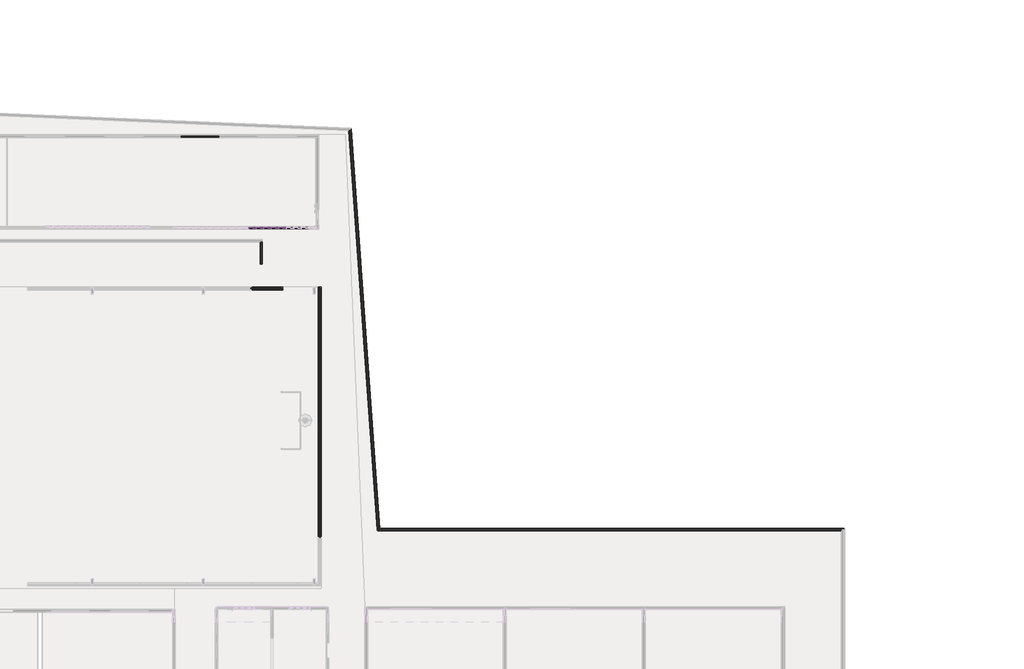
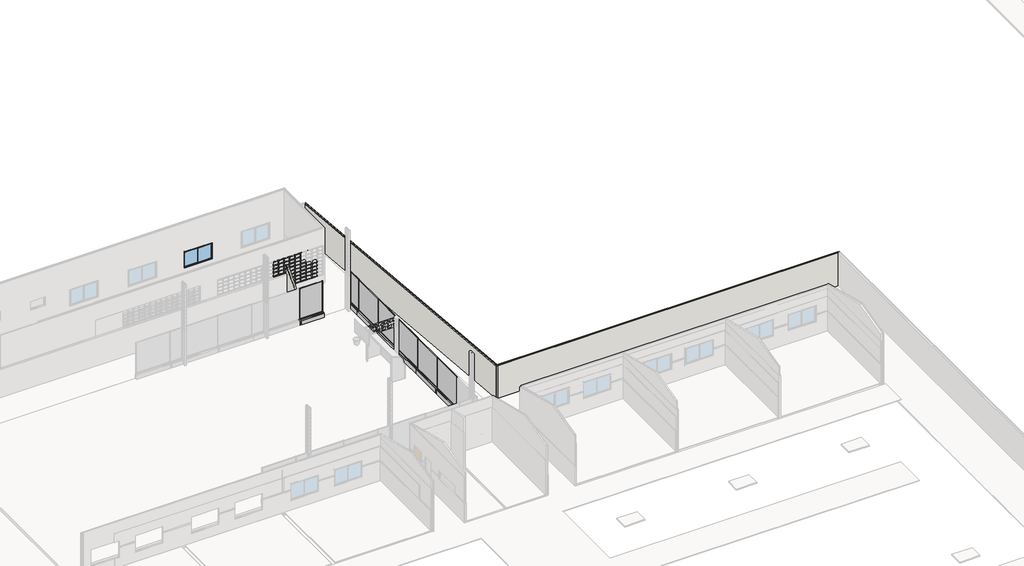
# One storey, part 26 of 28: 115 members, 9 walls, 7 plates, 1 window.
"""IFC4 building model written with IfcOpenShell, lengths in millimetres."""

from ifc_helpers import new_model, si_unit, frame, origin, origin_with_axes, place, context, project, spatial, polyline, outline, extrude, faceted_brep, transform, mapped, element, save
from components import montante_retangular_02d07947, montante_retangular_70ba8f4d, montante_retangular_ace9eee9, montante_retangular_afd96132, montante_retangular_e99c3e47, plate_c8864c2c, plate_b688e3d6, plate_8037e2f8, window_2x1_20x1x10_9e9748dd

model = new_model("IFC4")

# Units and contexts
model_context = context("Model", 3, world=origin())
ifc_project = project(units=[si_unit("LENGTHUNIT", "METRE", prefix="MILLI")], contexts=[model_context])

# Site, building, storey
site = spatial("IfcSite", under=ifc_project)
building = spatial("IfcBuilding", under=site)
storey = spatial("IfcBuildingStorey", under=building, Name="Térreo", Elevation=0.0)

# Members
placement = place(None, origin())
montante_retangular_shape = montante_retangular_02d07947(model_context)
element("IfcMember", 1, ObjectType="Montante retangular : FDE_MontanteVenezianaIndustrial_Intermediário_Ref50 (Alumínio Anodizado)", at=placement, inside=storey, context=model_context, shape_type="MappedRepresentation", body=[
    mapped(montante_retangular_shape, transform((-31822.631579, 48544.0879102, 925.0), x_axis=(1.0, 0.0, 0.0), y_axis=(0.0, -1.0, 0.0), z_axis=(0.0, 0.0, -1.0))),
])
element("IfcMember", 2, ObjectType="Montante retangular : FDE_MontanteVenezianaIndustrial_Intermediário_Ref50 (Alumínio Anodizado)", at=placement, inside=storey, context=model_context, shape_type="MappedRepresentation", body=[
    mapped(montante_retangular_shape, transform((-31416.0526317, 48544.0879102, 925.0), x_axis=(1.0, 0.0, 0.0), y_axis=(0.0, -1.0, 0.0), z_axis=(0.0, 0.0, -1.0))),
])
element("IfcMember", 3, ObjectType="Montante retangular : FDE_MontanteVenezianaIndustrial_Intermediário_Ref50 (Alumínio Anodizado)", at=placement, inside=storey, context=model_context, shape_type="MappedRepresentation", body=[
    mapped(montante_retangular_shape, transform((-31009.4736843, 48544.0879102, 925.0), x_axis=(1.0, 0.0, 0.0), y_axis=(0.0, -1.0, 0.0), z_axis=(0.0, 0.0, -1.0))),
])
element("IfcMember", 4, ObjectType="Montante retangular : FDE_MontanteVenezianaIndustrial_Intermediário_Ref50 (Alumínio Anodizado)", at=placement, inside=storey, context=model_context, shape_type="MappedRepresentation", body=[
    mapped(montante_retangular_shape, transform((-30602.894737, 48544.0879102, 925.0), x_axis=(1.0, 0.0, 0.0), y_axis=(0.0, -1.0, 0.0), z_axis=(0.0, 0.0, -1.0))),
])
element("IfcMember", 5, ObjectType="Montante retangular : FDE_MontanteVenezianaIndustrial_Intermediário_Ref50 (Alumínio Anodizado)", at=placement, inside=storey, context=model_context, shape_type="MappedRepresentation", body=[
    mapped(montante_retangular_shape, transform((-30196.3157897, 48544.0879102, 925.0), x_axis=(1.0, 0.0, 0.0), y_axis=(0.0, -1.0, 0.0), z_axis=(0.0, 0.0, -1.0))),
])
montante_retangular_2_shape = montante_retangular_70ba8f4d(model_context)
element("IfcMember", 6, ObjectType="Montante retangular : FDE_MontanteVenezianaIndustrial_Intermediário_Ref50 (Alumínio Anodizado)", at=placement, inside=storey, context=model_context, shape_type="MappedRepresentation", body=[
    mapped(montante_retangular_2_shape, transform((-31822.631579, 48544.0879102, 1174.0), x_axis=(1.0, 0.0, 0.0), y_axis=(0.0, -1.0, 0.0), z_axis=(0.0, 0.0, -1.0))),
])
element("IfcMember", 7, ObjectType="Montante retangular : FDE_MontanteVenezianaIndustrial_Intermediário_Ref50 (Alumínio Anodizado)", at=placement, inside=storey, context=model_context, shape_type="MappedRepresentation", body=[
    mapped(montante_retangular_2_shape, transform((-31416.0526317, 48544.0879102, 1174.0), x_axis=(1.0, 0.0, 0.0), y_axis=(0.0, -1.0, 0.0), z_axis=(0.0, 0.0, -1.0))),
])
element("IfcMember", 8, ObjectType="Montante retangular : FDE_MontanteVenezianaIndustrial_Intermediário_Ref50 (Alumínio Anodizado)", at=placement, inside=storey, context=model_context, shape_type="MappedRepresentation", body=[
    mapped(montante_retangular_2_shape, transform((-31009.4736843, 48544.0879102, 1174.0), x_axis=(1.0, 0.0, 0.0), y_axis=(0.0, -1.0, 0.0), z_axis=(0.0, 0.0, -1.0))),
])
element("IfcMember", 9, ObjectType="Montante retangular : FDE_MontanteVenezianaIndustrial_Intermediário_Ref50 (Alumínio Anodizado)", at=placement, inside=storey, context=model_context, shape_type="MappedRepresentation", body=[
    mapped(montante_retangular_2_shape, transform((-30602.894737, 48544.0879102, 1174.0), x_axis=(1.0, 0.0, 0.0), y_axis=(0.0, -1.0, 0.0), z_axis=(0.0, 0.0, -1.0))),
])
element("IfcMember", 10, ObjectType="Montante retangular : FDE_MontanteVenezianaIndustrial_Intermediário_Ref50 (Alumínio Anodizado)", at=placement, inside=storey, context=model_context, shape_type="MappedRepresentation", body=[
    mapped(montante_retangular_2_shape, transform((-30196.3157897, 48544.0879102, 1174.0), x_axis=(1.0, 0.0, 0.0), y_axis=(0.0, -1.0, 0.0), z_axis=(0.0, 0.0, -1.0))),
])
element("IfcMember", 11, ObjectType="Montante retangular : FDE_MontanteVenezianaIndustrial_Intermediário_Ref50 (Alumínio Anodizado)", at=placement, inside=storey, context=model_context, shape_type="MappedRepresentation", body=[
    mapped(montante_retangular_2_shape, transform((-31822.631579, 48544.0879102, 1448.0), x_axis=(1.0, 0.0, 0.0), y_axis=(0.0, -1.0, 0.0), z_axis=(0.0, 0.0, -1.0))),
])
element("IfcMember", 12, ObjectType="Montante retangular : FDE_MontanteVenezianaIndustrial_Intermediário_Ref50 (Alumínio Anodizado)", at=placement, inside=storey, context=model_context, shape_type="MappedRepresentation", body=[
    mapped(montante_retangular_2_shape, transform((-31416.0526317, 48544.0879102, 1448.0), x_axis=(1.0, 0.0, 0.0), y_axis=(0.0, -1.0, 0.0), z_axis=(0.0, 0.0, -1.0))),
])
element("IfcMember", 13, ObjectType="Montante retangular : FDE_MontanteVenezianaIndustrial_Intermediário_Ref50 (Alumínio Anodizado)", at=placement, inside=storey, context=model_context, shape_type="MappedRepresentation", body=[
    mapped(montante_retangular_2_shape, transform((-31009.4736843, 48544.0879102, 1448.0), x_axis=(1.0, 0.0, 0.0), y_axis=(0.0, -1.0, 0.0), z_axis=(0.0, 0.0, -1.0))),
])
element("IfcMember", 14, ObjectType="Montante retangular : FDE_MontanteVenezianaIndustrial_Intermediário_Ref50 (Alumínio Anodizado)", at=placement, inside=storey, context=model_context, shape_type="MappedRepresentation", body=[
    mapped(montante_retangular_2_shape, transform((-30602.894737, 48544.0879102, 1448.0), x_axis=(1.0, 0.0, 0.0), y_axis=(0.0, -1.0, 0.0), z_axis=(0.0, 0.0, -1.0))),
])
element("IfcMember", 15, ObjectType="Montante retangular : FDE_MontanteVenezianaIndustrial_Intermediário_Ref50 (Alumínio Anodizado)", at=placement, inside=storey, context=model_context, shape_type="MappedRepresentation", body=[
    mapped(montante_retangular_2_shape, transform((-30196.3157897, 48544.0879102, 1448.0), x_axis=(1.0, 0.0, 0.0), y_axis=(0.0, -1.0, 0.0), z_axis=(0.0, 0.0, -1.0))),
])
element("IfcMember", 16, ObjectType="Montante retangular : FDE_MontanteVenezianaIndustrial_Intermediário_Ref50 (Alumínio Anodizado)", at=placement, inside=storey, context=model_context, shape_type="MappedRepresentation", body=[
    mapped(montante_retangular_2_shape, transform((-31822.631579, 48544.0879102, 1722.0), x_axis=(1.0, 0.0, 0.0), y_axis=(0.0, -1.0, 0.0), z_axis=(0.0, 0.0, -1.0))),
])
element("IfcMember", 17, ObjectType="Montante retangular : FDE_MontanteVenezianaIndustrial_Intermediário_Ref50 (Alumínio Anodizado)", at=placement, inside=storey, context=model_context, shape_type="MappedRepresentation", body=[
    mapped(montante_retangular_2_shape, transform((-31416.0526317, 48544.0879102, 1722.0), x_axis=(1.0, 0.0, 0.0), y_axis=(0.0, -1.0, 0.0), z_axis=(0.0, 0.0, -1.0))),
])
element("IfcMember", 18, ObjectType="Montante retangular : FDE_MontanteVenezianaIndustrial_Intermediário_Ref50 (Alumínio Anodizado)", at=placement, inside=storey, context=model_context, shape_type="MappedRepresentation", body=[
    mapped(montante_retangular_2_shape, transform((-31009.4736843, 48544.0879102, 1722.0), x_axis=(1.0, 0.0, 0.0), y_axis=(0.0, -1.0, 0.0), z_axis=(0.0, 0.0, -1.0))),
])
element("IfcMember", 19, ObjectType="Montante retangular : FDE_MontanteVenezianaIndustrial_Intermediário_Ref50 (Alumínio Anodizado)", at=placement, inside=storey, context=model_context, shape_type="MappedRepresentation", body=[
    mapped(montante_retangular_2_shape, transform((-30602.894737, 48544.0879102, 1722.0), x_axis=(1.0, 0.0, 0.0), y_axis=(0.0, -1.0, 0.0), z_axis=(0.0, 0.0, -1.0))),
])
element("IfcMember", 20, ObjectType="Montante retangular : FDE_MontanteVenezianaIndustrial_Intermediário_Ref50 (Alumínio Anodizado)", at=placement, inside=storey, context=model_context, shape_type="MappedRepresentation", body=[
    mapped(montante_retangular_2_shape, transform((-30196.3157897, 48544.0879102, 1722.0), x_axis=(1.0, 0.0, 0.0), y_axis=(0.0, -1.0, 0.0), z_axis=(0.0, 0.0, -1.0))),
])
element("IfcMember", 21, ObjectType="Montante retangular : FDE_MontanteVenezianaIndustrial_Intermediário_Ref50 (Alumínio Anodizado)", at=placement, inside=storey, context=model_context, shape_type="MappedRepresentation", body=[
    mapped(montante_retangular_2_shape, transform((-31822.631579, 48544.0879102, 1996.0), x_axis=(1.0, 0.0, 0.0), y_axis=(0.0, -1.0, 0.0), z_axis=(0.0, 0.0, -1.0))),
])
element("IfcMember", 22, ObjectType="Montante retangular : FDE_MontanteVenezianaIndustrial_Intermediário_Ref50 (Alumínio Anodizado)", at=placement, inside=storey, context=model_context, shape_type="MappedRepresentation", body=[
    mapped(montante_retangular_2_shape, transform((-31416.0526317, 48544.0879102, 1996.0), x_axis=(1.0, 0.0, 0.0), y_axis=(0.0, -1.0, 0.0), z_axis=(0.0, 0.0, -1.0))),
])
element("IfcMember", 23, ObjectType="Montante retangular : FDE_MontanteVenezianaIndustrial_Intermediário_Ref50 (Alumínio Anodizado)", at=placement, inside=storey, context=model_context, shape_type="MappedRepresentation", body=[
    mapped(montante_retangular_2_shape, transform((-31009.4736843, 48544.0879102, 1996.0), x_axis=(1.0, 0.0, 0.0), y_axis=(0.0, -1.0, 0.0), z_axis=(0.0, 0.0, -1.0))),
])
element("IfcMember", 24, ObjectType="Montante retangular : FDE_MontanteVenezianaIndustrial_Intermediário_Ref50 (Alumínio Anodizado)", at=placement, inside=storey, context=model_context, shape_type="MappedRepresentation", body=[
    mapped(montante_retangular_2_shape, transform((-30602.894737, 48544.0879102, 1996.0), x_axis=(1.0, 0.0, 0.0), y_axis=(0.0, -1.0, 0.0), z_axis=(0.0, 0.0, -1.0))),
])
element("IfcMember", 25, ObjectType="Montante retangular : FDE_MontanteVenezianaIndustrial_Intermediário_Ref50 (Alumínio Anodizado)", at=placement, inside=storey, context=model_context, shape_type="MappedRepresentation", body=[
    mapped(montante_retangular_2_shape, transform((-30196.3157897, 48544.0879102, 1996.0), x_axis=(1.0, 0.0, 0.0), y_axis=(0.0, -1.0, 0.0), z_axis=(0.0, 0.0, -1.0))),
])
element("IfcMember", 26, ObjectType="Montante retangular : FDE_MontanteVenezianaIndustrial_Intermediário_Ref50 (Alumínio Anodizado)", at=placement, inside=storey, context=model_context, shape_type="MappedRepresentation", body=[
    mapped(montante_retangular_2_shape, transform((-31822.631579, 48544.0879102, 2270.0), x_axis=(1.0, 0.0, 0.0), y_axis=(0.0, -1.0, 0.0), z_axis=(0.0, 0.0, -1.0))),
])
element("IfcMember", 27, ObjectType="Montante retangular : FDE_MontanteVenezianaIndustrial_Intermediário_Ref50 (Alumínio Anodizado)", at=placement, inside=storey, context=model_context, shape_type="MappedRepresentation", body=[
    mapped(montante_retangular_2_shape, transform((-31416.0526317, 48544.0879102, 2270.0), x_axis=(1.0, 0.0, 0.0), y_axis=(0.0, -1.0, 0.0), z_axis=(0.0, 0.0, -1.0))),
])
element("IfcMember", 28, ObjectType="Montante retangular : FDE_MontanteVenezianaIndustrial_Intermediário_Ref50 (Alumínio Anodizado)", at=placement, inside=storey, context=model_context, shape_type="MappedRepresentation", body=[
    mapped(montante_retangular_2_shape, transform((-31009.4736843, 48544.0879102, 2270.0), x_axis=(1.0, 0.0, 0.0), y_axis=(0.0, -1.0, 0.0), z_axis=(0.0, 0.0, -1.0))),
])
element("IfcMember", 29, ObjectType="Montante retangular : FDE_MontanteVenezianaIndustrial_Intermediário_Ref50 (Alumínio Anodizado)", at=placement, inside=storey, context=model_context, shape_type="MappedRepresentation", body=[
    mapped(montante_retangular_2_shape, transform((-30602.894737, 48544.0879102, 2270.0), x_axis=(1.0, 0.0, 0.0), y_axis=(0.0, -1.0, 0.0), z_axis=(0.0, 0.0, -1.0))),
])
element("IfcMember", 30, ObjectType="Montante retangular : FDE_MontanteVenezianaIndustrial_Intermediário_Ref50 (Alumínio Anodizado)", at=placement, inside=storey, context=model_context, shape_type="MappedRepresentation", body=[
    mapped(montante_retangular_2_shape, transform((-30196.3157897, 48544.0879102, 2270.0), x_axis=(1.0, 0.0, 0.0), y_axis=(0.0, -1.0, 0.0), z_axis=(0.0, 0.0, -1.0))),
])
element("IfcMember", 31, ObjectType="Montante retangular : FDE_MontanteVenezianaIndustrial_Intermediário_Ref50 (Alumínio Anodizado)", at=placement, inside=storey, context=model_context, shape_type="MappedRepresentation", body=[
    mapped(montante_retangular_2_shape, transform((-31822.631579, 48544.0879102, 2544.0), x_axis=(1.0, 0.0, 0.0), y_axis=(0.0, -1.0, 0.0), z_axis=(0.0, 0.0, -1.0))),
])
element("IfcMember", 32, ObjectType="Montante retangular : FDE_MontanteVenezianaIndustrial_Intermediário_Ref50 (Alumínio Anodizado)", at=placement, inside=storey, context=model_context, shape_type="MappedRepresentation", body=[
    mapped(montante_retangular_2_shape, transform((-31416.0526317, 48544.0879102, 2544.0), x_axis=(1.0, 0.0, 0.0), y_axis=(0.0, -1.0, 0.0), z_axis=(0.0, 0.0, -1.0))),
])
element("IfcMember", 33, ObjectType="Montante retangular : FDE_MontanteVenezianaIndustrial_Intermediário_Ref50 (Alumínio Anodizado)", at=placement, inside=storey, context=model_context, shape_type="MappedRepresentation", body=[
    mapped(montante_retangular_2_shape, transform((-31009.4736843, 48544.0879102, 2544.0), x_axis=(1.0, 0.0, 0.0), y_axis=(0.0, -1.0, 0.0), z_axis=(0.0, 0.0, -1.0))),
])
element("IfcMember", 34, ObjectType="Montante retangular : FDE_MontanteVenezianaIndustrial_Intermediário_Ref50 (Alumínio Anodizado)", at=placement, inside=storey, context=model_context, shape_type="MappedRepresentation", body=[
    mapped(montante_retangular_2_shape, transform((-30602.894737, 48544.0879102, 2544.0), x_axis=(1.0, 0.0, 0.0), y_axis=(0.0, -1.0, 0.0), z_axis=(0.0, 0.0, -1.0))),
])
element("IfcMember", 35, ObjectType="Montante retangular : FDE_MontanteVenezianaIndustrial_Intermediário_Ref50 (Alumínio Anodizado)", at=placement, inside=storey, context=model_context, shape_type="MappedRepresentation", body=[
    mapped(montante_retangular_2_shape, transform((-30196.3157897, 48544.0879102, 2544.0), x_axis=(1.0, 0.0, 0.0), y_axis=(0.0, -1.0, 0.0), z_axis=(0.0, 0.0, -1.0))),
])
element("IfcMember", 36, ObjectType="Montante retangular : FDE_MontanteVenezianaIndustrial_Intermediário_Ref50 (Alumínio Anodizado)", at=placement, inside=storey, context=model_context, shape_type="MappedRepresentation", body=[
    mapped(montante_retangular_2_shape, transform((-31822.631579, 48544.0879102, 2818.0), x_axis=(1.0, 0.0, 0.0), y_axis=(0.0, -1.0, 0.0), z_axis=(0.0, 0.0, -1.0))),
])
element("IfcMember", 37, ObjectType="Montante retangular : FDE_MontanteVenezianaIndustrial_Intermediário_Ref50 (Alumínio Anodizado)", at=placement, inside=storey, context=model_context, shape_type="MappedRepresentation", body=[
    mapped(montante_retangular_2_shape, transform((-31416.0526317, 48544.0879102, 2818.0), x_axis=(1.0, 0.0, 0.0), y_axis=(0.0, -1.0, 0.0), z_axis=(0.0, 0.0, -1.0))),
])
element("IfcMember", 38, ObjectType="Montante retangular : FDE_MontanteVenezianaIndustrial_Intermediário_Ref50 (Alumínio Anodizado)", at=placement, inside=storey, context=model_context, shape_type="MappedRepresentation", body=[
    mapped(montante_retangular_2_shape, transform((-31009.4736843, 48544.0879102, 2818.0), x_axis=(1.0, 0.0, 0.0), y_axis=(0.0, -1.0, 0.0), z_axis=(0.0, 0.0, -1.0))),
])
element("IfcMember", 39, ObjectType="Montante retangular : FDE_MontanteVenezianaIndustrial_Intermediário_Ref50 (Alumínio Anodizado)", at=placement, inside=storey, context=model_context, shape_type="MappedRepresentation", body=[
    mapped(montante_retangular_2_shape, transform((-30602.894737, 48544.0879102, 2818.0), x_axis=(1.0, 0.0, 0.0), y_axis=(0.0, -1.0, 0.0), z_axis=(0.0, 0.0, -1.0))),
])
element("IfcMember", 40, ObjectType="Montante retangular : FDE_MontanteVenezianaIndustrial_Intermediário_Ref50 (Alumínio Anodizado)", at=placement, inside=storey, context=model_context, shape_type="MappedRepresentation", body=[
    mapped(montante_retangular_2_shape, transform((-30196.3157897, 48544.0879102, 2818.0), x_axis=(1.0, 0.0, 0.0), y_axis=(0.0, -1.0, 0.0), z_axis=(0.0, 0.0, -1.0))),
])
montante_retangular_3_shape = montante_retangular_ace9eee9(model_context)
element("IfcMember", 41, ObjectType="Montante retangular : FDE_MontanteVenezianaIndustrial_Intermediário_Ref50 (Alumínio Anodizado)", at=placement, inside=storey, context=model_context, shape_type="MappedRepresentation", body=[
    mapped(montante_retangular_3_shape, transform((-31822.631579, 48544.0879102, 3092.0), x_axis=(1.0, 0.0, 0.0), y_axis=(0.0, -1.0, 0.0), z_axis=(0.0, 0.0, -1.0))),
])
element("IfcMember", 42, ObjectType="Montante retangular : FDE_MontanteVenezianaIndustrial_Intermediário_Ref50 (Alumínio Anodizado)", at=placement, inside=storey, context=model_context, shape_type="MappedRepresentation", body=[
    mapped(montante_retangular_3_shape, transform((-31416.0526317, 48544.0879102, 3092.0), x_axis=(1.0, 0.0, 0.0), y_axis=(0.0, -1.0, 0.0), z_axis=(0.0, 0.0, -1.0))),
])
element("IfcMember", 43, ObjectType="Montante retangular : FDE_MontanteVenezianaIndustrial_Intermediário_Ref50 (Alumínio Anodizado)", at=placement, inside=storey, context=model_context, shape_type="MappedRepresentation", body=[
    mapped(montante_retangular_3_shape, transform((-31009.4736843, 48544.0879102, 3092.0), x_axis=(1.0, 0.0, 0.0), y_axis=(0.0, -1.0, 0.0), z_axis=(0.0, 0.0, -1.0))),
])
element("IfcMember", 44, ObjectType="Montante retangular : FDE_MontanteVenezianaIndustrial_Intermediário_Ref50 (Alumínio Anodizado)", at=placement, inside=storey, context=model_context, shape_type="MappedRepresentation", body=[
    mapped(montante_retangular_3_shape, transform((-30602.894737, 48544.0879102, 3092.0), x_axis=(1.0, 0.0, 0.0), y_axis=(0.0, -1.0, 0.0), z_axis=(0.0, 0.0, -1.0))),
])
element("IfcMember", 45, ObjectType="Montante retangular : FDE_MontanteVenezianaIndustrial_Intermediário_Ref50 (Alumínio Anodizado)", at=placement, inside=storey, context=model_context, shape_type="MappedRepresentation", body=[
    mapped(montante_retangular_3_shape, transform((-30196.3157897, 48544.0879102, 3092.0), x_axis=(1.0, 0.0, 0.0), y_axis=(0.0, -1.0, 0.0), z_axis=(0.0, 0.0, -1.0))),
])
montante_retangular_4_shape = montante_retangular_afd96132(model_context)
element("IfcMember", 46, ObjectType="Montante retangular : FDE_MontanteVenezianaIndustrial_BordaOpção2_Ref50 (Alumínio Anodizado)", at=placement, inside=storey, context=model_context, shape_type="MappedRepresentation", body=[
    mapped(montante_retangular_4_shape, transform((-31822.631579, 48544.0879102, 3200.0), x_axis=(0.0, 0.0, 1.0), y_axis=(0.0, -1.0, 0.0), z_axis=(1.0, 0.0, 0.0))),
])
element("IfcMember", 47, ObjectType="Montante retangular : FDE_MontanteVenezianaIndustrial_BordaOpção2_Ref50 (Alumínio Anodizado)", at=placement, inside=storey, context=model_context, shape_type="MappedRepresentation", body=[
    mapped(montante_retangular_4_shape, transform((-31416.0526317, 48544.0879102, 3200.0), x_axis=(0.0, 0.0, 1.0), y_axis=(0.0, -1.0, 0.0), z_axis=(1.0, 0.0, 0.0))),
])
element("IfcMember", 48, ObjectType="Montante retangular : FDE_MontanteVenezianaIndustrial_BordaOpção2_Ref50 (Alumínio Anodizado)", at=placement, inside=storey, context=model_context, shape_type="MappedRepresentation", body=[
    mapped(montante_retangular_4_shape, transform((-31009.4736843, 48544.0879102, 3200.0), x_axis=(0.0, 0.0, 1.0), y_axis=(0.0, -1.0, 0.0), z_axis=(1.0, 0.0, 0.0))),
])
element("IfcMember", 49, ObjectType="Montante retangular : FDE_MontanteVenezianaIndustrial_BordaOpção2_Ref50 (Alumínio Anodizado)", at=placement, inside=storey, context=model_context, shape_type="MappedRepresentation", body=[
    mapped(montante_retangular_4_shape, transform((-30602.894737, 48544.0879102, 3200.0), x_axis=(0.0, 0.0, 1.0), y_axis=(0.0, -1.0, 0.0), z_axis=(1.0, 0.0, 0.0))),
])
element("IfcMember", 50, ObjectType="Montante retangular : FDE_MontanteVenezianaIndustrial_BordaOpção2_Ref50 (Alumínio Anodizado)", at=placement, inside=storey, context=model_context, shape_type="MappedRepresentation", body=[
    mapped(montante_retangular_4_shape, transform((-30196.3157897, 48544.0879102, 3200.0), x_axis=(0.0, 0.0, 1.0), y_axis=(0.0, -1.0, 0.0), z_axis=(1.0, 0.0, 0.0))),
])
element("IfcMember", 51, ObjectType="Montante retangular : FDE_MontanteVenezianaIndustrial_BordaOpção2_Ref50 (Alumínio Anodizado)", at=placement, inside=storey, context=model_context, shape_type="MappedRepresentation", body=[
    mapped(montante_retangular_4_shape, transform((-29789.7368423, 48544.0879102, 3200.0), x_axis=(0.0, 0.0, 1.0), y_axis=(0.0, -1.0, 0.0), z_axis=(1.0, 0.0, 0.0))),
])
element("IfcMember", 52, ObjectType="Montante retangular : FDE_MontanteVenezianaIndustrial_BordaOpção2_Ref50 (Alumínio Anodizado)", at=placement, inside=storey, context=model_context, shape_type="MappedRepresentation", body=[
    mapped(montante_retangular_4_shape, transform((-29383.157895, 48544.0879102, 3200.0), x_axis=(0.0, 0.0, 1.0), y_axis=(0.0, -1.0, 0.0), z_axis=(1.0, 0.0, 0.0))),
])
element("IfcMember", 53, ObjectType="Montante retangular : FDE_MontanteVenezianaIndustrial_BordaOpção1_Ref50 (Alumínio Anodizado)", at=placement, inside=storey, context=model_context, shape_type="MappedRepresentation", body=[
    mapped(montante_retangular_4_shape, transform((-31822.631579, 48544.0879102, 900.0), x_axis=(0.0, 0.0, -1.0), y_axis=(0.0, -1.0, 0.0), z_axis=(-1.0, 0.0, 0.0))),
])
element("IfcMember", 54, ObjectType="Montante retangular : FDE_MontanteVenezianaIndustrial_BordaOpção1_Ref50 (Alumínio Anodizado)", at=placement, inside=storey, context=model_context, shape_type="MappedRepresentation", body=[
    mapped(montante_retangular_4_shape, transform((-31416.0526317, 48544.0879102, 900.0), x_axis=(0.0, 0.0, -1.0), y_axis=(0.0, -1.0, 0.0), z_axis=(-1.0, 0.0, 0.0))),
])
element("IfcMember", 55, ObjectType="Montante retangular : FDE_MontanteVenezianaIndustrial_BordaOpção1_Ref50 (Alumínio Anodizado)", at=placement, inside=storey, context=model_context, shape_type="MappedRepresentation", body=[
    mapped(montante_retangular_4_shape, transform((-31009.4736843, 48544.0879102, 900.0), x_axis=(0.0, 0.0, -1.0), y_axis=(0.0, -1.0, 0.0), z_axis=(-1.0, 0.0, 0.0))),
])
element("IfcMember", 56, ObjectType="Montante retangular : FDE_MontanteVenezianaIndustrial_BordaOpção1_Ref50 (Alumínio Anodizado)", at=placement, inside=storey, context=model_context, shape_type="MappedRepresentation", body=[
    mapped(montante_retangular_4_shape, transform((-30602.894737, 48544.0879102, 900.0), x_axis=(0.0, 0.0, -1.0), y_axis=(0.0, -1.0, 0.0), z_axis=(-1.0, 0.0, 0.0))),
])
element("IfcMember", 57, ObjectType="Montante retangular : FDE_MontanteVenezianaIndustrial_BordaOpção1_Ref50 (Alumínio Anodizado)", at=placement, inside=storey, context=model_context, shape_type="MappedRepresentation", body=[
    mapped(montante_retangular_4_shape, transform((-30196.3157897, 48544.0879102, 900.0), x_axis=(0.0, 0.0, -1.0), y_axis=(0.0, -1.0, 0.0), z_axis=(-1.0, 0.0, 0.0))),
])
element("IfcMember", 58, ObjectType="Montante retangular : FDE_MontanteVenezianaIndustrial_BordaOpção1_Ref50 (Alumínio Anodizado)", at=placement, inside=storey, context=model_context, shape_type="MappedRepresentation", body=[
    mapped(montante_retangular_4_shape, transform((-29789.7368423, 48544.0879102, 900.0), x_axis=(0.0, 0.0, -1.0), y_axis=(0.0, -1.0, 0.0), z_axis=(-1.0, 0.0, 0.0))),
])
element("IfcMember", 59, ObjectType="Montante retangular : FDE_MontanteVenezianaIndustrial_BordaOpção1_Ref50 (Alumínio Anodizado)", at=placement, inside=storey, context=model_context, shape_type="MappedRepresentation", body=[
    mapped(montante_retangular_4_shape, transform((-29383.157895, 48544.0879102, 900.0), x_axis=(0.0, 0.0, -1.0), y_axis=(0.0, -1.0, 0.0), z_axis=(-1.0, 0.0, 0.0))),
])
montante_retangular_5_shape = montante_retangular_e99c3e47(model_context)
element("IfcMember", 60, ObjectType="Montante retangular : FDE_AletaVenezianaIndustrial_Ref100 (Alumínio Anodizado)", at=placement, inside=storey, context=model_context, shape_type="MappedRepresentation", body=[
    mapped(montante_retangular_5_shape, transform((-31847.631579, 48544.0879102, 1174.0), x_axis=(0.0, 0.0, 1.0), y_axis=(0.0, -1.0, 0.0), z_axis=(1.0, 0.0, 0.0))),
])
element("IfcMember", 61, ObjectType="Montante retangular : FDE_AletaVenezianaIndustrial_Ref100 (Alumínio Anodizado)", at=placement, inside=storey, context=model_context, shape_type="MappedRepresentation", body=[
    mapped(montante_retangular_5_shape, transform((-31441.0526317, 48544.0879102, 1174.0), x_axis=(0.0, 0.0, 1.0), y_axis=(0.0, -1.0, 0.0), z_axis=(1.0, 0.0, 0.0))),
])
element("IfcMember", 62, ObjectType="Montante retangular : FDE_AletaVenezianaIndustrial_Ref100 (Alumínio Anodizado)", at=placement, inside=storey, context=model_context, shape_type="MappedRepresentation", body=[
    mapped(montante_retangular_5_shape, transform((-31034.4736843, 48544.0879102, 1174.0), x_axis=(0.0, 0.0, 1.0), y_axis=(0.0, -1.0, 0.0), z_axis=(1.0, 0.0, 0.0))),
])
element("IfcMember", 63, ObjectType="Montante retangular : FDE_AletaVenezianaIndustrial_Ref100 (Alumínio Anodizado)", at=placement, inside=storey, context=model_context, shape_type="MappedRepresentation", body=[
    mapped(montante_retangular_5_shape, transform((-30627.894737, 48544.0879102, 1174.0), x_axis=(0.0, 0.0, 1.0), y_axis=(0.0, -1.0, 0.0), z_axis=(1.0, 0.0, 0.0))),
])
element("IfcMember", 64, ObjectType="Montante retangular : FDE_AletaVenezianaIndustrial_Ref100 (Alumínio Anodizado)", at=placement, inside=storey, context=model_context, shape_type="MappedRepresentation", body=[
    mapped(montante_retangular_5_shape, transform((-30221.3157897, 48544.0879102, 1174.0), x_axis=(0.0, 0.0, 1.0), y_axis=(0.0, -1.0, 0.0), z_axis=(1.0, 0.0, 0.0))),
])
element("IfcMember", 65, ObjectType="Montante retangular : FDE_AletaVenezianaIndustrial_Ref100 (Alumínio Anodizado)", at=placement, inside=storey, context=model_context, shape_type="MappedRepresentation", body=[
    mapped(montante_retangular_5_shape, transform((-29814.7368423, 48544.0879102, 1174.0), x_axis=(0.0, 0.0, 1.0), y_axis=(0.0, -1.0, 0.0), z_axis=(1.0, 0.0, 0.0))),
])
element("IfcMember", 66, ObjectType="Montante retangular : FDE_AletaVenezianaIndustrial_Ref100 (Alumínio Anodizado)", at=placement, inside=storey, context=model_context, shape_type="MappedRepresentation", body=[
    mapped(montante_retangular_5_shape, transform((-29408.157895, 48544.0879102, 1174.0), x_axis=(0.0, 0.0, 1.0), y_axis=(0.0, -1.0, 0.0), z_axis=(1.0, 0.0, 0.0))),
])
element("IfcMember", 67, ObjectType="Montante retangular : FDE_AletaVenezianaIndustrial_Ref100 (Alumínio Anodizado)", at=placement, inside=storey, context=model_context, shape_type="MappedRepresentation", body=[
    mapped(montante_retangular_5_shape, transform((-29001.5789476, 48544.0879102, 1174.0), x_axis=(0.0, 0.0, 1.0), y_axis=(0.0, -1.0, 0.0), z_axis=(1.0, 0.0, 0.0))),
])
element("IfcMember", 68, ObjectType="Montante retangular : FDE_AletaVenezianaIndustrial_Ref100 (Alumínio Anodizado)", at=placement, inside=storey, context=model_context, shape_type="MappedRepresentation", body=[
    mapped(montante_retangular_5_shape, transform((-31847.631579, 48544.0879102, 1448.0), x_axis=(0.0, 0.0, 1.0), y_axis=(0.0, -1.0, 0.0), z_axis=(1.0, 0.0, 0.0))),
])
element("IfcMember", 69, ObjectType="Montante retangular : FDE_AletaVenezianaIndustrial_Ref100 (Alumínio Anodizado)", at=placement, inside=storey, context=model_context, shape_type="MappedRepresentation", body=[
    mapped(montante_retangular_5_shape, transform((-31441.0526317, 48544.0879102, 1448.0), x_axis=(0.0, 0.0, 1.0), y_axis=(0.0, -1.0, 0.0), z_axis=(1.0, 0.0, 0.0))),
])
element("IfcMember", 70, ObjectType="Montante retangular : FDE_AletaVenezianaIndustrial_Ref100 (Alumínio Anodizado)", at=placement, inside=storey, context=model_context, shape_type="MappedRepresentation", body=[
    mapped(montante_retangular_5_shape, transform((-31034.4736843, 48544.0879102, 1448.0), x_axis=(0.0, 0.0, 1.0), y_axis=(0.0, -1.0, 0.0), z_axis=(1.0, 0.0, 0.0))),
])
element("IfcMember", 71, ObjectType="Montante retangular : FDE_AletaVenezianaIndustrial_Ref100 (Alumínio Anodizado)", at=placement, inside=storey, context=model_context, shape_type="MappedRepresentation", body=[
    mapped(montante_retangular_5_shape, transform((-30627.894737, 48544.0879102, 1448.0), x_axis=(0.0, 0.0, 1.0), y_axis=(0.0, -1.0, 0.0), z_axis=(1.0, 0.0, 0.0))),
])
element("IfcMember", 72, ObjectType="Montante retangular : FDE_AletaVenezianaIndustrial_Ref100 (Alumínio Anodizado)", at=placement, inside=storey, context=model_context, shape_type="MappedRepresentation", body=[
    mapped(montante_retangular_5_shape, transform((-30221.3157897, 48544.0879102, 1448.0), x_axis=(0.0, 0.0, 1.0), y_axis=(0.0, -1.0, 0.0), z_axis=(1.0, 0.0, 0.0))),
])
element("IfcMember", 73, ObjectType="Montante retangular : FDE_AletaVenezianaIndustrial_Ref100 (Alumínio Anodizado)", at=placement, inside=storey, context=model_context, shape_type="MappedRepresentation", body=[
    mapped(montante_retangular_5_shape, transform((-29814.7368423, 48544.0879102, 1448.0), x_axis=(0.0, 0.0, 1.0), y_axis=(0.0, -1.0, 0.0), z_axis=(1.0, 0.0, 0.0))),
])
element("IfcMember", 74, ObjectType="Montante retangular : FDE_AletaVenezianaIndustrial_Ref100 (Alumínio Anodizado)", at=placement, inside=storey, context=model_context, shape_type="MappedRepresentation", body=[
    mapped(montante_retangular_5_shape, transform((-29408.157895, 48544.0879102, 1448.0), x_axis=(0.0, 0.0, 1.0), y_axis=(0.0, -1.0, 0.0), z_axis=(1.0, 0.0, 0.0))),
])
element("IfcMember", 75, ObjectType="Montante retangular : FDE_AletaVenezianaIndustrial_Ref100 (Alumínio Anodizado)", at=placement, inside=storey, context=model_context, shape_type="MappedRepresentation", body=[
    mapped(montante_retangular_5_shape, transform((-29001.5789476, 48544.0879102, 1448.0), x_axis=(0.0, 0.0, 1.0), y_axis=(0.0, -1.0, 0.0), z_axis=(1.0, 0.0, 0.0))),
])
element("IfcMember", 76, ObjectType="Montante retangular : FDE_AletaVenezianaIndustrial_Ref100 (Alumínio Anodizado)", at=placement, inside=storey, context=model_context, shape_type="MappedRepresentation", body=[
    mapped(montante_retangular_5_shape, transform((-31847.631579, 48544.0879102, 1722.0), x_axis=(0.0, 0.0, 1.0), y_axis=(0.0, -1.0, 0.0), z_axis=(1.0, 0.0, 0.0))),
])
element("IfcMember", 77, ObjectType="Montante retangular : FDE_AletaVenezianaIndustrial_Ref100 (Alumínio Anodizado)", at=placement, inside=storey, context=model_context, shape_type="MappedRepresentation", body=[
    mapped(montante_retangular_5_shape, transform((-31441.0526317, 48544.0879102, 1722.0), x_axis=(0.0, 0.0, 1.0), y_axis=(0.0, -1.0, 0.0), z_axis=(1.0, 0.0, 0.0))),
])
element("IfcMember", 78, ObjectType="Montante retangular : FDE_AletaVenezianaIndustrial_Ref100 (Alumínio Anodizado)", at=placement, inside=storey, context=model_context, shape_type="MappedRepresentation", body=[
    mapped(montante_retangular_5_shape, transform((-31034.4736843, 48544.0879102, 1722.0), x_axis=(0.0, 0.0, 1.0), y_axis=(0.0, -1.0, 0.0), z_axis=(1.0, 0.0, 0.0))),
])
element("IfcMember", 79, ObjectType="Montante retangular : FDE_AletaVenezianaIndustrial_Ref100 (Alumínio Anodizado)", at=placement, inside=storey, context=model_context, shape_type="MappedRepresentation", body=[
    mapped(montante_retangular_5_shape, transform((-30627.894737, 48544.0879102, 1722.0), x_axis=(0.0, 0.0, 1.0), y_axis=(0.0, -1.0, 0.0), z_axis=(1.0, 0.0, 0.0))),
])
element("IfcMember", 80, ObjectType="Montante retangular : FDE_AletaVenezianaIndustrial_Ref100 (Alumínio Anodizado)", at=placement, inside=storey, context=model_context, shape_type="MappedRepresentation", body=[
    mapped(montante_retangular_5_shape, transform((-30221.3157897, 48544.0879102, 1722.0), x_axis=(0.0, 0.0, 1.0), y_axis=(0.0, -1.0, 0.0), z_axis=(1.0, 0.0, 0.0))),
])
element("IfcMember", 81, ObjectType="Montante retangular : FDE_AletaVenezianaIndustrial_Ref100 (Alumínio Anodizado)", at=placement, inside=storey, context=model_context, shape_type="MappedRepresentation", body=[
    mapped(montante_retangular_5_shape, transform((-29814.7368423, 48544.0879102, 1722.0), x_axis=(0.0, 0.0, 1.0), y_axis=(0.0, -1.0, 0.0), z_axis=(1.0, 0.0, 0.0))),
])
element("IfcMember", 82, ObjectType="Montante retangular : FDE_AletaVenezianaIndustrial_Ref100 (Alumínio Anodizado)", at=placement, inside=storey, context=model_context, shape_type="MappedRepresentation", body=[
    mapped(montante_retangular_5_shape, transform((-29408.157895, 48544.0879102, 1722.0), x_axis=(0.0, 0.0, 1.0), y_axis=(0.0, -1.0, 0.0), z_axis=(1.0, 0.0, 0.0))),
])
element("IfcMember", 83, ObjectType="Montante retangular : FDE_AletaVenezianaIndustrial_Ref100 (Alumínio Anodizado)", at=placement, inside=storey, context=model_context, shape_type="MappedRepresentation", body=[
    mapped(montante_retangular_5_shape, transform((-29001.5789476, 48544.0879102, 1722.0), x_axis=(0.0, 0.0, 1.0), y_axis=(0.0, -1.0, 0.0), z_axis=(1.0, 0.0, 0.0))),
])
element("IfcMember", 84, ObjectType="Montante retangular : FDE_AletaVenezianaIndustrial_Ref100 (Alumínio Anodizado)", at=placement, inside=storey, context=model_context, shape_type="MappedRepresentation", body=[
    mapped(montante_retangular_5_shape, transform((-31847.631579, 48544.0879102, 1996.0), x_axis=(0.0, 0.0, 1.0), y_axis=(0.0, -1.0, 0.0), z_axis=(1.0, 0.0, 0.0))),
])
element("IfcMember", 85, ObjectType="Montante retangular : FDE_AletaVenezianaIndustrial_Ref100 (Alumínio Anodizado)", at=placement, inside=storey, context=model_context, shape_type="MappedRepresentation", body=[
    mapped(montante_retangular_5_shape, transform((-31441.0526317, 48544.0879102, 1996.0), x_axis=(0.0, 0.0, 1.0), y_axis=(0.0, -1.0, 0.0), z_axis=(1.0, 0.0, 0.0))),
])
element("IfcMember", 86, ObjectType="Montante retangular : FDE_AletaVenezianaIndustrial_Ref100 (Alumínio Anodizado)", at=placement, inside=storey, context=model_context, shape_type="MappedRepresentation", body=[
    mapped(montante_retangular_5_shape, transform((-31034.4736843, 48544.0879102, 1996.0), x_axis=(0.0, 0.0, 1.0), y_axis=(0.0, -1.0, 0.0), z_axis=(1.0, 0.0, 0.0))),
])
element("IfcMember", 87, ObjectType="Montante retangular : FDE_AletaVenezianaIndustrial_Ref100 (Alumínio Anodizado)", at=placement, inside=storey, context=model_context, shape_type="MappedRepresentation", body=[
    mapped(montante_retangular_5_shape, transform((-30627.894737, 48544.0879102, 1996.0), x_axis=(0.0, 0.0, 1.0), y_axis=(0.0, -1.0, 0.0), z_axis=(1.0, 0.0, 0.0))),
])
element("IfcMember", 88, ObjectType="Montante retangular : FDE_AletaVenezianaIndustrial_Ref100 (Alumínio Anodizado)", at=placement, inside=storey, context=model_context, shape_type="MappedRepresentation", body=[
    mapped(montante_retangular_5_shape, transform((-30221.3157897, 48544.0879102, 1996.0), x_axis=(0.0, 0.0, 1.0), y_axis=(0.0, -1.0, 0.0), z_axis=(1.0, 0.0, 0.0))),
])
element("IfcMember", 89, ObjectType="Montante retangular : FDE_AletaVenezianaIndustrial_Ref100 (Alumínio Anodizado)", at=placement, inside=storey, context=model_context, shape_type="MappedRepresentation", body=[
    mapped(montante_retangular_5_shape, transform((-29814.7368423, 48544.0879102, 1996.0), x_axis=(0.0, 0.0, 1.0), y_axis=(0.0, -1.0, 0.0), z_axis=(1.0, 0.0, 0.0))),
])
element("IfcMember", 90, ObjectType="Montante retangular : FDE_AletaVenezianaIndustrial_Ref100 (Alumínio Anodizado)", at=placement, inside=storey, context=model_context, shape_type="MappedRepresentation", body=[
    mapped(montante_retangular_5_shape, transform((-29408.157895, 48544.0879102, 1996.0), x_axis=(0.0, 0.0, 1.0), y_axis=(0.0, -1.0, 0.0), z_axis=(1.0, 0.0, 0.0))),
])
element("IfcMember", 91, ObjectType="Montante retangular : FDE_AletaVenezianaIndustrial_Ref100 (Alumínio Anodizado)", at=placement, inside=storey, context=model_context, shape_type="MappedRepresentation", body=[
    mapped(montante_retangular_5_shape, transform((-29001.5789476, 48544.0879102, 1996.0), x_axis=(0.0, 0.0, 1.0), y_axis=(0.0, -1.0, 0.0), z_axis=(1.0, 0.0, 0.0))),
])
element("IfcMember", 92, ObjectType="Montante retangular : FDE_AletaVenezianaIndustrial_Ref100 (Alumínio Anodizado)", at=placement, inside=storey, context=model_context, shape_type="MappedRepresentation", body=[
    mapped(montante_retangular_5_shape, transform((-31847.631579, 48544.0879102, 2270.0), x_axis=(0.0, 0.0, 1.0), y_axis=(0.0, -1.0, 0.0), z_axis=(1.0, 0.0, 0.0))),
])
element("IfcMember", 93, ObjectType="Montante retangular : FDE_AletaVenezianaIndustrial_Ref100 (Alumínio Anodizado)", at=placement, inside=storey, context=model_context, shape_type="MappedRepresentation", body=[
    mapped(montante_retangular_5_shape, transform((-31441.0526317, 48544.0879102, 2270.0), x_axis=(0.0, 0.0, 1.0), y_axis=(0.0, -1.0, 0.0), z_axis=(1.0, 0.0, 0.0))),
])
element("IfcMember", 94, ObjectType="Montante retangular : FDE_AletaVenezianaIndustrial_Ref100 (Alumínio Anodizado)", at=placement, inside=storey, context=model_context, shape_type="MappedRepresentation", body=[
    mapped(montante_retangular_5_shape, transform((-31034.4736843, 48544.0879102, 2270.0), x_axis=(0.0, 0.0, 1.0), y_axis=(0.0, -1.0, 0.0), z_axis=(1.0, 0.0, 0.0))),
])
element("IfcMember", 95, ObjectType="Montante retangular : FDE_AletaVenezianaIndustrial_Ref100 (Alumínio Anodizado)", at=placement, inside=storey, context=model_context, shape_type="MappedRepresentation", body=[
    mapped(montante_retangular_5_shape, transform((-30627.894737, 48544.0879102, 2270.0), x_axis=(0.0, 0.0, 1.0), y_axis=(0.0, -1.0, 0.0), z_axis=(1.0, 0.0, 0.0))),
])
element("IfcMember", 96, ObjectType="Montante retangular : FDE_AletaVenezianaIndustrial_Ref100 (Alumínio Anodizado)", at=placement, inside=storey, context=model_context, shape_type="MappedRepresentation", body=[
    mapped(montante_retangular_5_shape, transform((-30221.3157897, 48544.0879102, 2270.0), x_axis=(0.0, 0.0, 1.0), y_axis=(0.0, -1.0, 0.0), z_axis=(1.0, 0.0, 0.0))),
])
element("IfcMember", 97, ObjectType="Montante retangular : FDE_AletaVenezianaIndustrial_Ref100 (Alumínio Anodizado)", at=placement, inside=storey, context=model_context, shape_type="MappedRepresentation", body=[
    mapped(montante_retangular_5_shape, transform((-29814.7368423, 48544.0879102, 2270.0), x_axis=(0.0, 0.0, 1.0), y_axis=(0.0, -1.0, 0.0), z_axis=(1.0, 0.0, 0.0))),
])
element("IfcMember", 98, ObjectType="Montante retangular : FDE_AletaVenezianaIndustrial_Ref100 (Alumínio Anodizado)", at=placement, inside=storey, context=model_context, shape_type="MappedRepresentation", body=[
    mapped(montante_retangular_5_shape, transform((-29408.157895, 48544.0879102, 2270.0), x_axis=(0.0, 0.0, 1.0), y_axis=(0.0, -1.0, 0.0), z_axis=(1.0, 0.0, 0.0))),
])
element("IfcMember", 99, ObjectType="Montante retangular : FDE_AletaVenezianaIndustrial_Ref100 (Alumínio Anodizado)", at=placement, inside=storey, context=model_context, shape_type="MappedRepresentation", body=[
    mapped(montante_retangular_5_shape, transform((-29001.5789476, 48544.0879102, 2270.0), x_axis=(0.0, 0.0, 1.0), y_axis=(0.0, -1.0, 0.0), z_axis=(1.0, 0.0, 0.0))),
])
element("IfcMember", 100, ObjectType="Montante retangular : FDE_AletaVenezianaIndustrial_Ref100 (Alumínio Anodizado)", at=placement, inside=storey, context=model_context, shape_type="MappedRepresentation", body=[
    mapped(montante_retangular_5_shape, transform((-31847.631579, 48544.0879102, 2544.0), x_axis=(0.0, 0.0, 1.0), y_axis=(0.0, -1.0, 0.0), z_axis=(1.0, 0.0, 0.0))),
])
element("IfcMember", 101, ObjectType="Montante retangular : FDE_AletaVenezianaIndustrial_Ref100 (Alumínio Anodizado)", at=placement, inside=storey, context=model_context, shape_type="MappedRepresentation", body=[
    mapped(montante_retangular_5_shape, transform((-31441.0526317, 48544.0879102, 2544.0), x_axis=(0.0, 0.0, 1.0), y_axis=(0.0, -1.0, 0.0), z_axis=(1.0, 0.0, 0.0))),
])
element("IfcMember", 102, ObjectType="Montante retangular : FDE_AletaVenezianaIndustrial_Ref100 (Alumínio Anodizado)", at=placement, inside=storey, context=model_context, shape_type="MappedRepresentation", body=[
    mapped(montante_retangular_5_shape, transform((-31034.4736843, 48544.0879102, 2544.0), x_axis=(0.0, 0.0, 1.0), y_axis=(0.0, -1.0, 0.0), z_axis=(1.0, 0.0, 0.0))),
])
element("IfcMember", 103, ObjectType="Montante retangular : FDE_AletaVenezianaIndustrial_Ref100 (Alumínio Anodizado)", at=placement, inside=storey, context=model_context, shape_type="MappedRepresentation", body=[
    mapped(montante_retangular_5_shape, transform((-30627.894737, 48544.0879102, 2544.0), x_axis=(0.0, 0.0, 1.0), y_axis=(0.0, -1.0, 0.0), z_axis=(1.0, 0.0, 0.0))),
])
element("IfcMember", 104, ObjectType="Montante retangular : FDE_AletaVenezianaIndustrial_Ref100 (Alumínio Anodizado)", at=placement, inside=storey, context=model_context, shape_type="MappedRepresentation", body=[
    mapped(montante_retangular_5_shape, transform((-30221.3157897, 48544.0879102, 2544.0), x_axis=(0.0, 0.0, 1.0), y_axis=(0.0, -1.0, 0.0), z_axis=(1.0, 0.0, 0.0))),
])
element("IfcMember", 105, ObjectType="Montante retangular : FDE_AletaVenezianaIndustrial_Ref100 (Alumínio Anodizado)", at=placement, inside=storey, context=model_context, shape_type="MappedRepresentation", body=[
    mapped(montante_retangular_5_shape, transform((-29814.7368423, 48544.0879102, 2544.0), x_axis=(0.0, 0.0, 1.0), y_axis=(0.0, -1.0, 0.0), z_axis=(1.0, 0.0, 0.0))),
])
element("IfcMember", 106, ObjectType="Montante retangular : FDE_AletaVenezianaIndustrial_Ref100 (Alumínio Anodizado)", at=placement, inside=storey, context=model_context, shape_type="MappedRepresentation", body=[
    mapped(montante_retangular_5_shape, transform((-31847.631579, 48544.0879102, 2818.0), x_axis=(0.0, 0.0, 1.0), y_axis=(0.0, -1.0, 0.0), z_axis=(1.0, 0.0, 0.0))),
])
element("IfcMember", 107, ObjectType="Montante retangular : FDE_AletaVenezianaIndustrial_Ref100 (Alumínio Anodizado)", at=placement, inside=storey, context=model_context, shape_type="MappedRepresentation", body=[
    mapped(montante_retangular_5_shape, transform((-31441.0526317, 48544.0879102, 2818.0), x_axis=(0.0, 0.0, 1.0), y_axis=(0.0, -1.0, 0.0), z_axis=(1.0, 0.0, 0.0))),
])
element("IfcMember", 108, ObjectType="Montante retangular : FDE_AletaVenezianaIndustrial_Ref100 (Alumínio Anodizado)", at=placement, inside=storey, context=model_context, shape_type="MappedRepresentation", body=[
    mapped(montante_retangular_5_shape, transform((-31034.4736843, 48544.0879102, 2818.0), x_axis=(0.0, 0.0, 1.0), y_axis=(0.0, -1.0, 0.0), z_axis=(1.0, 0.0, 0.0))),
])
element("IfcMember", 109, ObjectType="Montante retangular : FDE_AletaVenezianaIndustrial_Ref100 (Alumínio Anodizado)", at=placement, inside=storey, context=model_context, shape_type="MappedRepresentation", body=[
    mapped(montante_retangular_5_shape, transform((-30627.894737, 48544.0879102, 2818.0), x_axis=(0.0, 0.0, 1.0), y_axis=(0.0, -1.0, 0.0), z_axis=(1.0, 0.0, 0.0))),
])
element("IfcMember", 110, ObjectType="Montante retangular : FDE_AletaVenezianaIndustrial_Ref100 (Alumínio Anodizado)", at=placement, inside=storey, context=model_context, shape_type="MappedRepresentation", body=[
    mapped(montante_retangular_5_shape, transform((-30221.3157897, 48544.0879102, 2818.0), x_axis=(0.0, 0.0, 1.0), y_axis=(0.0, -1.0, 0.0), z_axis=(1.0, 0.0, 0.0))),
])
element("IfcMember", 111, ObjectType="Montante retangular : FDE_AletaVenezianaIndustrial_Ref100 (Alumínio Anodizado)", at=placement, inside=storey, context=model_context, shape_type="MappedRepresentation", body=[
    mapped(montante_retangular_5_shape, transform((-31847.631579, 48544.0879102, 3092.0), x_axis=(0.0, 0.0, 1.0), y_axis=(0.0, -1.0, 0.0), z_axis=(1.0, 0.0, 0.0))),
])
element("IfcMember", 112, ObjectType="Montante retangular : FDE_AletaVenezianaIndustrial_Ref100 (Alumínio Anodizado)", at=placement, inside=storey, context=model_context, shape_type="MappedRepresentation", body=[
    mapped(montante_retangular_5_shape, transform((-31441.0526317, 48544.0879102, 3092.0), x_axis=(0.0, 0.0, 1.0), y_axis=(0.0, -1.0, 0.0), z_axis=(1.0, 0.0, 0.0))),
])
element("IfcMember", 113, ObjectType="Montante retangular : FDE_AletaVenezianaIndustrial_Ref100 (Alumínio Anodizado)", at=placement, inside=storey, context=model_context, shape_type="MappedRepresentation", body=[
    mapped(montante_retangular_5_shape, transform((-31034.4736843, 48544.0879102, 3092.0), x_axis=(0.0, 0.0, 1.0), y_axis=(0.0, -1.0, 0.0), z_axis=(1.0, 0.0, 0.0))),
])
element("IfcMember", 114, ObjectType="Montante retangular : FDE_AletaVenezianaIndustrial_Ref100 (Alumínio Anodizado)", at=placement, inside=storey, context=model_context, shape_type="MappedRepresentation", body=[
    mapped(montante_retangular_5_shape, transform((-30627.894737, 48544.0879102, 3092.0), x_axis=(0.0, 0.0, 1.0), y_axis=(0.0, -1.0, 0.0), z_axis=(1.0, 0.0, 0.0))),
])
element("IfcMember", 115, ObjectType="Montante retangular : FDE_AletaVenezianaIndustrial_Ref100 (Alumínio Anodizado)", at=placement, inside=storey, context=model_context, shape_type="MappedRepresentation", body=[
    mapped(montante_retangular_5_shape, transform((-30221.3157897, 48544.0879102, 3092.0), x_axis=(0.0, 0.0, 1.0), y_axis=(0.0, -1.0, 0.0), z_axis=(1.0, 0.0, 0.0))),
])

# Plates
plate_shape = plate_c8864c2c(model_context)
element("IfcPlate", 116, ObjectType="FDE_FQ01_FechamentoParaQuadradeEsportes : FQ01_LateraisSapata", at=placement, inside=storey, context=model_context, shape_type="MappedRepresentation", body=[
    mapped(plate_shape, transform((-28385.0, 33003.7010514, -350.0), x_axis=(0.0, 1.0, 0.0), y_axis=(-1.0, 0.0, 0.0), z_axis=(0.0, 0.0, 1.0))),
])
element("IfcPlate", 117, ObjectType="FDE_FQ01_FechamentoParaQuadradeEsportes : FQ01_LateraisSapata", at=placement, inside=storey, context=model_context, shape_type="MappedRepresentation", body=[
    mapped(plate_shape, transform((-28385.0, 35503.7010514, -350.0), x_axis=(0.0, 1.0, 0.0), y_axis=(-1.0, 0.0, 0.0), z_axis=(0.0, 0.0, 1.0))),
])
element("IfcPlate", 118, ObjectType="FDE_FQ01_FechamentoParaQuadradeEsportes : FQ01_LateraisSapata", at=placement, inside=storey, context=model_context, shape_type="MappedRepresentation", body=[
    mapped(plate_shape, transform((-28385.0, 38003.7010514, -350.0), x_axis=(0.0, 1.0, 0.0), y_axis=(-1.0, 0.0, 0.0), z_axis=(0.0, 0.0, 1.0))),
])
element("IfcPlate", 119, ObjectType="FDE_FQ01_FechamentoParaQuadradeEsportes : FQ01_LateraisSapata", at=placement, inside=storey, context=model_context, shape_type="MappedRepresentation", body=[
    mapped(plate_shape, transform((-28385.0, 40503.7010514, -350.0), x_axis=(0.0, 1.0, 0.0), y_axis=(-1.0, 0.0, 0.0), z_axis=(0.0, 0.0, 1.0))),
])
element("IfcPlate", 120, ObjectType="FDE_FQ01_FechamentoParaQuadradeEsportes : FQ01_LateraisSapata", at=placement, inside=storey, context=model_context, shape_type="MappedRepresentation", body=[
    mapped(plate_shape, transform((-28385.0, 43003.7010514, -350.0), x_axis=(0.0, 1.0, 0.0), y_axis=(-1.0, 0.0, 0.0), z_axis=(0.0, 0.0, 1.0))),
])
plate_2_shape = plate_b688e3d6(model_context)
element("IfcPlate", 121, ObjectType="FDE_FQ01_FechamentoParaQuadradeEsportes : FQ01_LateraisSapata", at=placement, inside=storey, context=model_context, shape_type="MappedRepresentation", body=[
    mapped(plate_2_shape, transform((-28385.0, 44759.3505257, -350.0), x_axis=(0.0, 1.0, 0.0), y_axis=(-1.0, 0.0, 0.0), z_axis=(0.0, 0.0, 1.0))),
])
plate_3_shape = plate_8037e2f8(model_context)
element("IfcPlate", 122, ObjectType="FDE_FQ01_FechamentoParaQuadradeEsportes : FQ01_LateraisSapata", at=placement, inside=storey, context=model_context, shape_type="MappedRepresentation", body=[
    mapped(plate_3_shape, transform((-31314.9999998, 45265.0, -350.0), x_axis=(1.0, 0.0, 0.0), y_axis=(0.0, 1.0, 0.0), z_axis=(0.0, 0.0, 1.0))),
])

# Walls
element("IfcWall", 123, ObjectType="FDE_S712_AlvenariadeTijoloCerâmico/Baiano_Alvenaria_9cm - Existente", at=placement, inside=storey, context=model_context, shape_type="SweptSolid", body=[
    extrude(outline(polyline([(-25170.5909436, 32270.0), (-180.0, 32270.0), (-180.0, 32180.0), (-25164.163453, 32180.0), (-25170.5909436, 32270.0)])), origin_with_axes(), (0.0, 0.0, 1.0), 2545.9092161),
])
element("IfcWall", 124, ObjectType="FDE_S712_AlvenariadeTijoloCerâmico/Baiano_Alvenaria_9cm - Existente", at=placement, inside=storey, context=model_context, shape_type="SweptSolid", body=[
    extrude(outline(polyline([(-25252.4027999, 32152.137054), (-26799.4191074, 53814.0071153), (-26708.9129983, 53810.1300551), (-25162.6314403, 32158.5482159), (-25252.4027999, 32152.137054)])), origin_with_axes(), (0.0, 0.0, 1.0), 2545.9092161),
])
element("IfcWall", 125, ObjectType="FDE_S712_AlvenariadeTijoloCerâmico/Baiano_Alvenaria_9cm - Existente", at=placement, inside=storey, context=model_context, shape_type="Brep", body=[
    faceted_brep([(-25164.163453, 32180.0, 0.0), (-201.0, 32180.0, 0.0), (-180.0, 32180.0, 0.0), (-180.0, 32180.0, 2545.9092161), (-201.0, 32180.0, 2545.9092161), (-25164.163453, 32180.0, 2545.9092161), (-25170.5909436, 32270.0, 0.0), (-25170.5909436, 32270.0, 2545.9092161), (-25149.5374583, 32270.0, 2545.9092161), (-180.0, 32270.0, 2545.9092161), (-180.0, 32270.0, 0.0), (-25149.5374583, 32270.0, 0.0)], [[[0, 1, 2, 3, 4, 5]], [[6, 7, 8, 9, 10, 11]], [[3, 2, 10, 9]], [[2, 1, 0, 6, 11, 10]], [[5, 4, 3, 9, 8, 7]], [[0, 5, 7, 6]]]),
])
element("IfcWall", 126, ObjectType="Pardes Externas_Pintura Acrílica Branco Neve", at=placement, inside=storey, context=model_context, shape_type="Brep", body=[
    faceted_brep([(-26715.3661258, 53900.489031, 0.0), (-25170.5909436, 32270.0, 0.0), (-25170.5909436, 32270.0, 2545.9092161), (-26715.3661258, 53900.489031, 2545.9092161), (-26694.2480337, 53899.5843836, 0.0), (-26694.2480337, 53899.5843836, 2545.9092161), (-25149.5374583, 32270.0, 2545.9092161), (-25149.5374583, 32270.0, 0.0), (-25151.0372061, 32291.0, 0.0)], [[[0, 1, 2, 3]], [[4, 5, 6, 7, 8]], [[1, 0, 4, 8, 7]], [[3, 2, 6, 5]], [[2, 1, 7, 6]], [[0, 3, 5, 4]]]),
])
element("IfcWall", 127, ObjectType="Pardes Externas_Pintura Acrílica Branco Neve", at=placement, inside=storey, context=model_context, shape_type="Brep", body=[
    faceted_brep([(-25149.5374583, 32270.0, 0.0), (-180.0, 32270.0, 0.0), (-30.0, 32270.0, 0.0), (-30.0, 32270.0, 2551.1739106), (-25149.5374583, 32270.0, 2551.1739106), (-25149.5374583, 32270.0, 2545.9092161), (-25151.0372061, 32291.0, 0.0), (-25151.0372061, 32291.0, 2551.1739106), (-30.0, 32291.0, 2551.1739106), (-30.0, 32291.0, 0.0)], [[[0, 1, 2, 3, 4, 5]], [[6, 7, 8, 9]], [[2, 1, 0, 6, 9]], [[4, 3, 8, 7]], [[0, 5, 4, 7, 6]], [[3, 2, 9, 8]]]),
])
element("IfcWall", 128, ObjectType="Pardes Externas_Pintura Acrílica Branco Neve", at=placement, inside=storey, context=model_context, shape_type="SweptSolid", body=[
    extrude(outline(polyline([(-25164.163453, 32180.0), (-180.0, 32180.0), (-180.0, 32159.0), (-25162.6637051, 32159.0), (-25164.163453, 32180.0)])), origin_with_axes(), (0.0, 0.0, 1.0), 2545.9092161),
])
element("IfcWall", 129, ObjectType="Pardes Externas_Pintura Acrílica Branco Neve", at=placement, inside=storey, context=model_context, shape_type="SweptSolid", body=[
    extrude(outline(polyline([(-26797.5129814, 53787.316864), (-25253.6962192, 32170.2479689), (-25274.6428697, 32168.7520311), (-26818.4596319, 53785.8209262), (-26797.5129814, 53787.316864)])), origin_with_axes(), (0.0, 0.0, 1.0), 2545.9092161),
])
element("IfcWall", 130, ObjectType="FDE_S712_AlvenariadeTijoloCerâmico/Baiano_Alvenaria_9cm", at=placement, inside=storey, context=model_context, shape_type="Brep", body=[
    faceted_brep([(-31587.66665, 47789.0, 200.0), (-31587.66665, 46589.0, 200.0), (-31587.66665, 46589.0, 1600.0), (-31587.66665, 47789.0, 2949.3975904), (-31587.66665, 47789.0, 2420.0), (-31587.66665, 47789.0, 220.0), (-31497.66665, 47789.0, 200.0), (-31497.66665, 47789.0, 2420.0), (-31497.66665, 47789.0, 2949.3975904), (-31497.66665, 46589.0, 1600.0), (-31497.66665, 46589.0, 200.0)], [[[0, 1, 2, 3, 4, 5]], [[6, 7, 8, 9, 10]], [[0, 5, 4, 3, 8, 7, 6]], [[1, 0, 6, 10]], [[2, 1, 10, 9]], [[3, 2, 9, 8]]]),
])
element("IfcWall", 131, ObjectType="Pardes Externas_Pintura Acrílica Branco Neve", at=placement, inside=storey, context=model_context, shape_type="SweptSolid", body=[
    extrude(outline(polyline([(47879.0, 200.0), (46589.0, 200.0), (46589.0, 1600.0), (47879.0, 2988.6966551), (47879.0, 200.0)])), frame((-31608.66665, 0.0, 0.0), z_axis=(1.0, 0.0, 0.0), x_axis=(0.0, 1.0, 0.0)), (0.0, 0.0, 1.0), 21.0),
])

# Window
window_2x1_20x1x10_shape = window_2x1_20x1x10_9e9748dd(model_context)
element("IfcWindow", 132, ObjectType="JANELA COM ESQUADRIA DE CORRER - 2 FOLHAS : 2x1.20x1x10", at=placement, inside=storey, context=model_context, shape_type="MappedRepresentation", body=[
    mapped(window_2x1_20x1x10_shape, transform((-34999.4035509, 53494.9637497, 0.0), x_axis=(1.0, 0.0, 0.0), y_axis=(0.0, 1.0, 0.0), z_axis=(0.0, 0.0, 1.0))),
])

save(model, "model.ifc")
